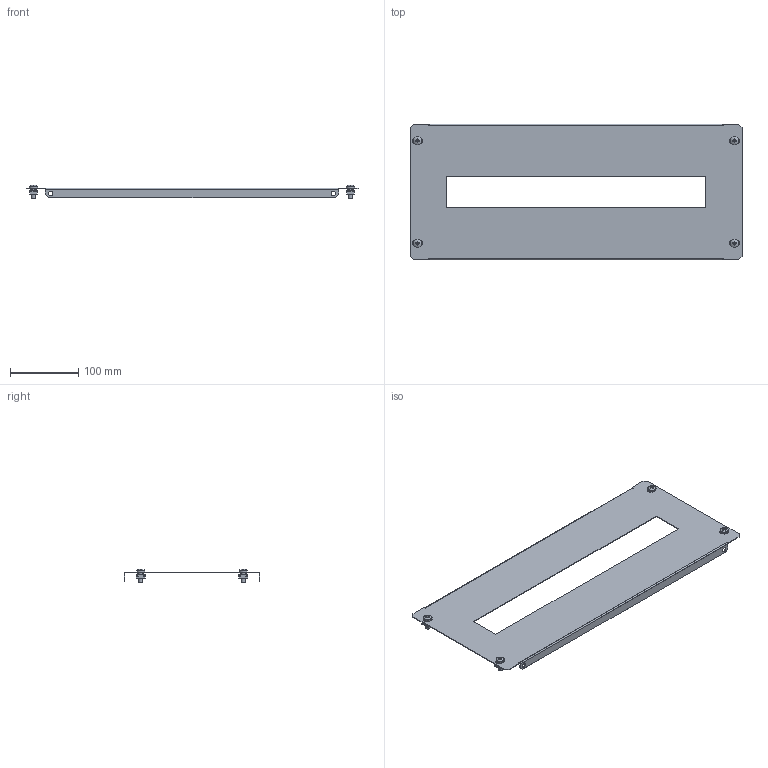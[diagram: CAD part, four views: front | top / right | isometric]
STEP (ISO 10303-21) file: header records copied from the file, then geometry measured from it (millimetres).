
FILE_DESCRIPTION (( 'STEP AP203' ), '1' );
FILE_NAME ('MA1.401.060002.01.00 Ïëàñòðîí ñ âûðåçîì äëÿ ìîäóëüíûõ óñòðîéñòâ Â200 Ø600 ìì EKF AleSta-FPFU2060.STEP', '2024-12-02T12:51:29', ( '' ), ( '' ), 'SwSTEP 2.0', 'SolidWorks 2021', '' );
FILE_SCHEMA (( 'CONFIG_CONTROL_DESIGN' ));
Length unit declared in the file: millimetre
Products named in the file (6): Ãàéêà çàêëàäíàÿ; Îáîëî÷êà ãàéêè çàêëàäíîé; Ãàéêà çàêëàäêàÿ Ì6; MA1.401.060002.01.00 Ïëàñòðîí ñ âûðåçîì äëÿ ìîäóëüíûõ óñòðîéñòâ Â200 Ø600 ìì EKF AleSta-FPFU2060; MA1.401.060002.01.01 Ïëàñòðîí ñ âûðåçîì äëÿ ìîäóëüíûõ óñòðîéñòâ Â200 Ø600 ìì EKF AleSta_Copy of ˜=600; pan head cross recess screw_din_DIN EN ISO 7045 - M6 x 16 - Z - 16N
Assembly tree (11 placements, depth 3):
  MA1.401.060002.01.00 Ïëàñòðîí ñ âûðåçîì äëÿ ìîäóëüíûõ óñòðîéñòâ Â200 Ø600 ìì EKF AleSta-FPFU2060
    MA1.401.060002.01.01 Ïëàñòðîí ñ âûðåçîì äëÿ ìîäóëüíûõ óñòðîéñòâ Â200 Ø600 ìì EKF AleSta_Copy of ˜=600
    Ãàéêà çàêëàäíàÿ  x4
      Îáîëî÷êà ãàéêè çàêëàäíîé
      Ãàéêà çàêëàäêàÿ Ì6
    pan head cross recess screw_din_DIN EN ISO 7045 - M6 x 16 - Z - 16N  x4
Bounding box: 486 x 199 x 20.48 mm (x, y, z)
Volume: 94681.7 mm3; surface area: 188648.5 mm2
Topology: 13 solids, 13 shells, 694 faces, 1546 edges, 882 vertices
Faces by surface type: plane 446, cylinder 144, bspline 64, cone 28, torus 8, sphere 4
Full cylindrical faces by diameter (mm): 6 x8, 6.5 x4, 7 x4, 12 x4
Entity records: 7540 total; most frequent: CARTESIAN_POINT 1693, DIRECTION 1030, ORIENTED_EDGE 1024, EDGE_CURVE 512, VECTOR 364, LINE 364, AXIS2_PLACEMENT_3D 333, VERTEX_POINT 308
